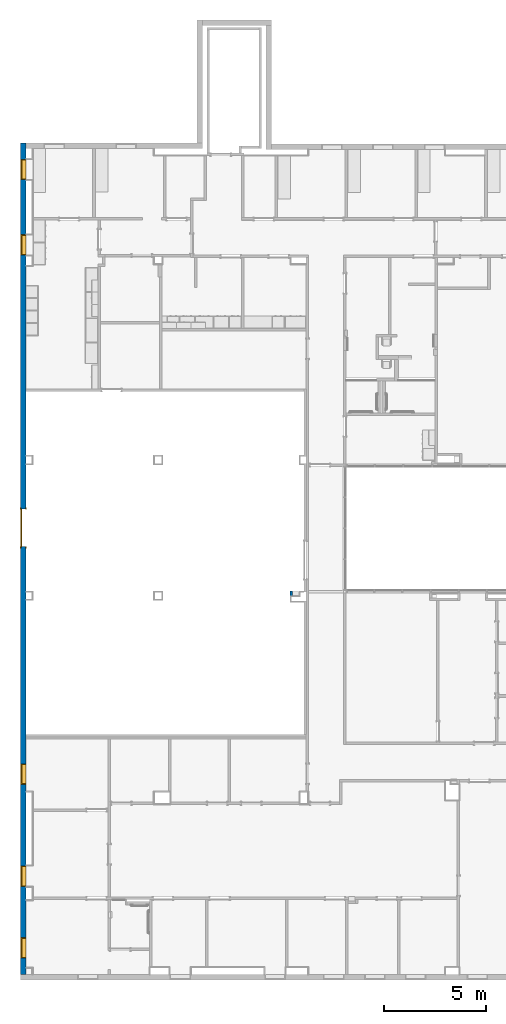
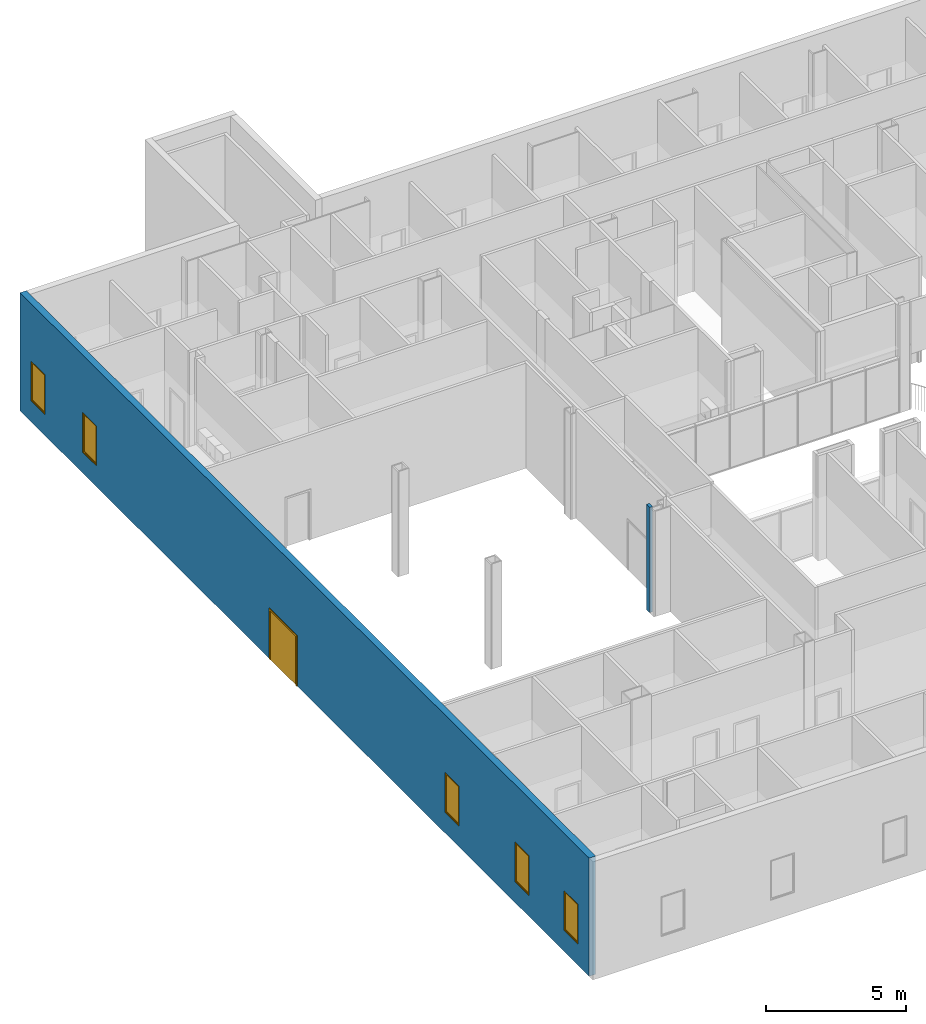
# One storey, part 11 of 47: 5 windows, 2 walls, 1 door, 6 openings.
"""IFC2X3 building model written with IfcOpenShell, lengths in metres."""

from ifc_helpers import new_model, entity, si_unit, converted_unit, frame, frame_2d, origin, origin_2d_with_axis, place, context, project, spatial, polyline, rectangle, outline, extrude, source, transform, mapped, material, layer, layer_set, layer_usage, type_object, type_shapes, element, fill, save


model = new_model("IFC2X3")

# Units and contexts
model_context = context("Model", 3, precision=1e-09, world=origin())
plan_context = context("Plan", 3, precision=1e-09, world=origin())
ifc_project = project(units=[si_unit("LENGTHUNIT", "METRE"), si_unit("AREAUNIT", "SQUARE_METRE"), si_unit("VOLUMEUNIT", "CUBIC_METRE"), converted_unit("PLANEANGLEUNIT", "DEGREE", entity("IfcRatioMeasure", 0.01745329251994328), si_unit("PLANEANGLEUNIT", "RADIAN"), dimensions=[0, 0, 0, 0, 0, 0, 0]), si_unit("TIMEUNIT", "SECOND")], contexts=[model_context, plan_context])

# Site, building, storey
site_placement = place(None, origin())
site = spatial("IfcSite", under=ifc_project, at=site_placement, Name="Default", CompositionType="ELEMENT")
building_placement = place(site_placement, origin())
building = spatial("IfcBuilding", under=site, at=building_placement, CompositionType="ELEMENT")
storey_placement = place(building_placement, frame((0.0, 0.0, 4.570000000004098)))
storey = spatial("IfcBuildingStorey", under=building, at=storey_placement, Name="Second Floor", CompositionType="ELEMENT", Elevation=4.570000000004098)

# Wall, openings, door, windows
ifc_material_1 = material(Name="Insulation - Insulated Panel")
ifc_layer_1 = layer(ifc_material_1, 0.042)
ifc_material_2 = material(Name="Metal - Firring")
ifc_layer_2 = layer(ifc_material_2, 0.038)
ifc_material_3 = material(Name="Wood - Sheathing - plywood")
ifc_layer_3 = layer(ifc_material_3, 0.019)
ifc_material_4 = material(Name="Metal - Stud Layer")
ifc_layer_4 = layer(ifc_material_4, 0.152)
ifc_material_5 = material(Name="Plasterboard")
ifc_layer_5 = layer(ifc_material_5, 0.016)
ifc_layer_set_1 = layer_set([ifc_layer_1, ifc_layer_2, ifc_layer_3, ifc_layer_4, ifc_layer_5], Name="Basic Wall:Exterior - Insul Panel on Mtl. Stud")
ifc_layer_usage_1 = layer_usage(ifc_layer_set_1, "AXIS2", "NEGATIVE", 0.1335)
wall_1_placement = place(storey_placement, frame((-47.24650000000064, 9.926999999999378, 0.0), z_axis=(0.0, 0.0, 1.0), x_axis=(0.0, 1.0, 0.0)))
wall_1 = element("IfcWallStandardCase", 1, at=wall_1_placement, inside=storey, material=ifc_layer_usage_1, Name="Basic Wall:Exterior - Insul Panel on Mtl. Stud", ObjectType="Basic Wall:Exterior - Insul Panel on Mtl. Stud", context=model_context, shape_type="SweptSolid", body=[
    extrude(rectangle(XDim=40.57743871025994, YDim=0.2670000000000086, at=frame_2d((20.28871935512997, 0.0), x_axis=(-1.0, 0.0))), origin(), (0.0, 0.0, 1.0), 5.136999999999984),
])
opening_1_placement = place(wall_1_placement, frame((0.8000000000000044, -0.1335000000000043, 0.905)))
opening_1 = element("IfcOpeningElement", 2, at=opening_1_placement, cuts=wall_1, Name="M_Fixed:1735 x 1000mm:1735 x 1000mm:1", ObjectType="Opening", context=model_context, shape_type="SweptSolid", body=[
    extrude(rectangle(XDim=1.734999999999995, YDim=0.9999999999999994, at=frame_2d((0.8674999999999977, 0.5000000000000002), x_axis=(1.0, 0.0))), frame((0.0, 0.0, 0.0), z_axis=(0.0, 1.0, 0.0), x_axis=(0.0, 0.0, 1.0)), (0.0, 0.0, 1.0), 0.267),
])
opening_2_placement = place(wall_1_placement, frame((4.300353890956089, -0.133500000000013, 0.905)))
opening_2 = element("IfcOpeningElement", 3, at=opening_2_placement, cuts=wall_1, Name="M_Fixed:1735 x 1000mm:1735 x 1000mm:1", ObjectType="Opening", context=model_context, shape_type="SweptSolid", body=[
    extrude(rectangle(XDim=1.734999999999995, YDim=0.9999999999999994, at=frame_2d((0.8674999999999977, 0.5000000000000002), x_axis=(1.0, 0.0))), frame((0.0, 0.0, 0.0), z_axis=(0.0, 1.0, 0.0), x_axis=(0.0, 0.0, 1.0)), (0.0, 0.0, 1.0), 0.267),
])
opening_3_placement = place(wall_1_placement, frame((9.287438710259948, -0.1335000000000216, 0.905)))
opening_3 = element("IfcOpeningElement", 4, at=opening_3_placement, cuts=wall_1, Name="M_Fixed:1735 x 1000mm:1735 x 1000mm:1", ObjectType="Opening", context=model_context, shape_type="SweptSolid", body=[
    extrude(rectangle(XDim=1.734999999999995, YDim=0.9999999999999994, at=frame_2d((0.8674999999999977, 0.5000000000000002), x_axis=(1.0, 0.0))), frame((0.0, 0.0, 0.0), z_axis=(0.0, 1.0, 0.0), x_axis=(0.0, 0.0, 1.0)), (0.0, 0.0, 1.0), 0.267),
])
opening_4_placement = place(wall_1_placement, frame((35.11743913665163, -0.133500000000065, 0.905)))
opening_4 = element("IfcOpeningElement", 5, at=opening_4_placement, cuts=wall_1, Name="M_Fixed:1735 x 1000mm:1735 x 1000mm:1", ObjectType="Opening", context=model_context, shape_type="SweptSolid", body=[
    extrude(rectangle(XDim=1.734999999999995, YDim=0.9999999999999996, at=frame_2d((0.8674999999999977, 0.4999999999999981), x_axis=(1.0, 0.0))), frame((0.0, 0.0, 0.0), z_axis=(0.0, 1.0, 0.0), x_axis=(0.0, 0.0, 1.0)), (0.0, 0.0, 1.0), 0.267),
])
opening_5_placement = place(wall_1_placement, frame((38.79544628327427, -0.1335000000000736, 0.905)))
opening_5 = element("IfcOpeningElement", 6, at=opening_5_placement, cuts=wall_1, Name="M_Fixed:1735 x 1000mm:1735 x 1000mm:1", ObjectType="Opening", context=model_context, shape_type="SweptSolid", body=[
    extrude(rectangle(XDim=1.734999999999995, YDim=0.9999999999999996, at=frame_2d((0.8674999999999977, 0.4999999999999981), x_axis=(1.0, 0.0))), frame((0.0, 0.0, 0.0), z_axis=(0.0, 1.0, 0.0), x_axis=(0.0, 0.0, 1.0)), (0.0, 0.0, 1.0), 0.267),
])
opening_6_placement = place(wall_1_placement, frame((20.88743871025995, -0.1335000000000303, 0.0)))
opening_6 = element("IfcOpeningElement", 7, at=opening_6_placement, cuts=wall_1, Name="M_Double-Flush:1830 x 2134mm Exterior:1830 x 2134mm Exterior:1", ObjectType="Opening", context=model_context, shape_type="SweptSolid", body=[
    extrude(rectangle(XDim=2.133999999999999, YDim=1.829999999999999, at=frame_2d((1.067, 0.9149999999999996), x_axis=(1.0, 0.0))), frame((0.0, 0.0, 0.0), z_axis=(0.0, 1.0, 0.0), x_axis=(0.0, 0.0, 1.0)), (0.0, 0.0, 1.0), 0.267),
])
door_style = type_object("IfcDoorStyle", Name="1830 x 2134mm Exterior", ConstructionType="NOTDEFINED", OperationType="DOUBLE_DOOR_SINGLE_SWING", ParameterTakesPrecedence=False, Sizeable=False)
shared_shape_1 = source(origin(), model_context, "Body", "SweptSolid", [
    extrude(rectangle(XDim=0.051, YDim=0.9150000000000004, at=origin_2d_with_axis()), frame((1.3725, 0.2414999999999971, 0.0), z_axis=(0.0, 0.0, 1.0), x_axis=(0.0, -1.0, 0.0)), (0.0, 0.0, 1.0), 2.133999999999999),
    extrude(rectangle(XDim=0.05099999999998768, YDim=0.9149999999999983, at=origin_2d_with_axis()), frame((0.457500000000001, 0.2415000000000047, 0.0), z_axis=(0.0, 0.0, 1.0), x_axis=(0.0, -1.0, 0.0)), (0.0, 0.0, 1.0), 2.134),
    extrude(outline(polyline([(-1.048, 0.9149999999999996), (1.086, 0.9149999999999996), (1.086, 0.9909999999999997), (-1.124, 0.9909999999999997), (-1.124, -0.9909999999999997), (1.086, -0.9909999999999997), (1.086, -0.9149999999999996), (-1.048, -0.9149999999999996), (-1.048, 0.9149999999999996)])), frame((0.9149999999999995, -0.02499999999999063, 1.086), z_axis=(0.0, 1.0, 0.0), x_axis=(0.0, 0.0, -1.0)), (0.0, 0.0, 1.0), 0.02499999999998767),
    extrude(outline(polyline([(-1.048, 0.9149999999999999), (1.086, 0.9149999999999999), (1.086, 0.991), (-1.124, 0.991), (-1.124, -0.991), (1.086, -0.991), (1.086, -0.9149999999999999), (-1.048, -0.9149999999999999), (-1.048, 0.9149999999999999)])), frame((0.9150000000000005, 0.266999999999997, 1.086), z_axis=(0.0, 1.0, 0.0), x_axis=(0.0, 0.0, -1.0)), (0.0, 0.0, 1.0), 0.02500000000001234),
])
type_shapes(door_style, [shared_shape_1])
door_placement = place(opening_6_placement, origin())
door = element("IfcDoor", 8, at=door_placement, inside=storey, type_object=door_style, Name="M_Double-Flush:1830 x 2134mm Exterior:1830 x 2134mm Exterior", ObjectType="1830 x 2134mm Exterior", OverallHeight=2.133999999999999, OverallWidth=1.83, context=model_context, shape_type="MappedRepresentation", body=[
    mapped(shared_shape_1, transform((0.0, 0.0, 0.0), scale=1.0)),
])
fill(opening_6, door)
window_style = type_object("IfcWindowStyle", Name="1735 x 1000mm", ConstructionType="NOTDEFINED", OperationType="NOTDEFINED", ParameterTakesPrecedence=False, Sizeable=False)
shared_shape_2 = source(origin(), model_context, "Body", "SweptSolid", [
    extrude(rectangle(XDim=0.012, YDim=0.873999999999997, at=origin_2d_with_axis()), frame((0.5000000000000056, 0.2259999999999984, 0.06299999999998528), z_axis=(0.0, 0.0, 1.0), x_axis=(0.0, -1.0, 0.0)), (0.0, 0.0, 1.0), 1.609000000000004),
    extrude(outline(polyline([(-0.4809999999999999, -0.8485000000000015), (0.4809999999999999, -0.8485000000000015), (0.4809999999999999, 0.8485000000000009), (-0.4809999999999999, 0.8485000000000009), (-0.4809999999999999, -0.8485000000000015)]), holes=[polyline([(-0.4369999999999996, -0.8045000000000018), (-0.4369999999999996, 0.8045000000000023), (0.4369999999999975, 0.8045000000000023), (0.4369999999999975, -0.8045000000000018), (-0.4369999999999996, -0.8045000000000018)])]), frame((0.5000000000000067, 0.203999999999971, 0.8674999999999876), z_axis=(0.0, 1.0, 0.0), x_axis=(1.0, 0.0, 0.0)), (0.0, 0.0, 1.0), 0.04400000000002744),
    extrude(outline(polyline([(-0.4999999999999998, -0.8674999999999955), (0.4999999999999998, -0.8674999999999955), (0.4999999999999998, 0.8674999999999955), (-0.4999999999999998, 0.8674999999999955), (-0.4999999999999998, -0.8674999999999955)]), holes=[polyline([(-0.4810000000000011, -0.8484999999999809), (-0.4810000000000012, 0.8485000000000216), (0.4809999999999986, 0.8485000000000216), (0.4809999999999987, -0.8484999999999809), (-0.4810000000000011, -0.8484999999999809)])]), frame((0.500000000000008, 0.203999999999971, 0.8675000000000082), z_axis=(0.0, 1.0, 0.0), x_axis=(1.0, 0.0, 0.0)), (0.0, 0.0, 1.0), 0.06300000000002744),
    extrude(outline(polyline([(-0.5000000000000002, -0.867499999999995), (0.5000000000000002, -0.867499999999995), (0.5000000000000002, 0.867499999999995), (-0.5000000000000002, 0.867499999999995), (-0.5000000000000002, -0.867499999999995)]), holes=[polyline([(-0.4679999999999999, -0.8354999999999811), (-0.4679999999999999, 0.8355000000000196), (0.4680000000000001, 0.8355000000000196), (0.4680000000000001, -0.8354999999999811), (-0.4679999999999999, -0.8354999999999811)])]), frame((0.5000000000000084, 0.0, 0.8675000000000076), z_axis=(0.0, 1.0, 0.0), x_axis=(1.0, 0.0, 0.0)), (0.0, 0.0, 1.0), 0.2039999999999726),
])
type_shapes(window_style, [shared_shape_2])
window_1_placement = place(opening_1_placement, origin())
window_1 = element("IfcWindow", 9, at=window_1_placement, inside=storey, type_object=window_style, Name="M_Fixed:1735 x 1000mm:1735 x 1000mm", ObjectType="1735 x 1000mm", OverallHeight=1.734999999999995, OverallWidth=1.0, context=model_context, shape_type="MappedRepresentation", body=[
    mapped(shared_shape_2, transform((0.0, 0.0, 0.0), scale=1.0)),
])
fill(opening_1, window_1)
window_2_placement = place(opening_2_placement, origin())
window_2 = element("IfcWindow", 10, at=window_2_placement, inside=storey, type_object=window_style, Name="M_Fixed:1735 x 1000mm:1735 x 1000mm", ObjectType="1735 x 1000mm", OverallHeight=1.734999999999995, OverallWidth=1.0, context=model_context, shape_type="MappedRepresentation", body=[
    mapped(shared_shape_2, transform((0.0, 0.0, 0.0), scale=1.0)),
])
fill(opening_2, window_2)
window_3_placement = place(opening_3_placement, origin())
window_3 = element("IfcWindow", 11, at=window_3_placement, inside=storey, type_object=window_style, Name="M_Fixed:1735 x 1000mm:1735 x 1000mm", ObjectType="1735 x 1000mm", OverallHeight=1.734999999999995, OverallWidth=1.0, context=model_context, shape_type="MappedRepresentation", body=[
    mapped(shared_shape_2, transform((0.0, 0.0, 0.0), scale=1.0)),
])
fill(opening_3, window_3)
window_4_placement = place(opening_4_placement, origin())
window_4 = element("IfcWindow", 12, at=window_4_placement, inside=storey, type_object=window_style, Name="M_Fixed:1735 x 1000mm:1735 x 1000mm", ObjectType="1735 x 1000mm", OverallHeight=1.734999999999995, OverallWidth=0.9999999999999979, context=model_context, shape_type="MappedRepresentation", body=[
    mapped(shared_shape_2, transform((0.0, 0.0, 0.0), scale=1.0)),
])
fill(opening_4, window_4)
window_5_placement = place(opening_5_placement, origin())
window_5 = element("IfcWindow", 13, at=window_5_placement, inside=storey, type_object=window_style, Name="M_Fixed:1735 x 1000mm:1735 x 1000mm", ObjectType="1735 x 1000mm", OverallHeight=1.734999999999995, OverallWidth=0.9999999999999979, context=model_context, shape_type="MappedRepresentation", body=[
    mapped(shared_shape_2, transform((0.0, 0.0, 0.0), scale=1.0)),
])
fill(opening_5, window_5)

# Wall
ifc_layer_6 = layer(ifc_material_5, 0.016)
ifc_layer_7 = layer(ifc_material_4, 0.092)
ifc_layer_8 = layer(ifc_material_5, 0.016)
ifc_layer_set_2 = layer_set([ifc_layer_6, ifc_layer_7, ifc_layer_8], Name="Basic Wall:Interior - Partition (92mm Stud)")
ifc_layer_usage_2 = layer_usage(ifc_layer_set_2, "AXIS2", "NEGATIVE", 0.062)
wall_2_placement = place(storey_placement, frame((-34.15800000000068, 28.41443871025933, 0.0), z_axis=(0.0, 0.0, 1.0), x_axis=(0.0, 1.0, 0.0)))
element("IfcWallStandardCase", 14, at=wall_2_placement, inside=storey, material=ifc_layer_usage_2, Name="Basic Wall:Interior - Partition (92mm Stud)", ObjectType="Basic Wall:Interior - Partition (92mm Stud)", context=model_context, shape_type="SweptSolid", body=[
    extrude(rectangle(XDim=0.2299999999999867, YDim=0.1239999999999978, at=frame_2d((0.1149999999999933, 0.0), x_axis=(-1.0, 0.0))), origin(), (0.0, 0.0, 1.0), 4.577999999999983),
])

save(model, "model.ifc")
